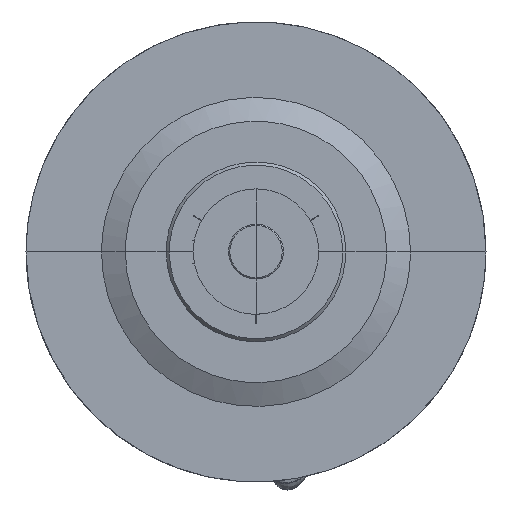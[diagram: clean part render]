
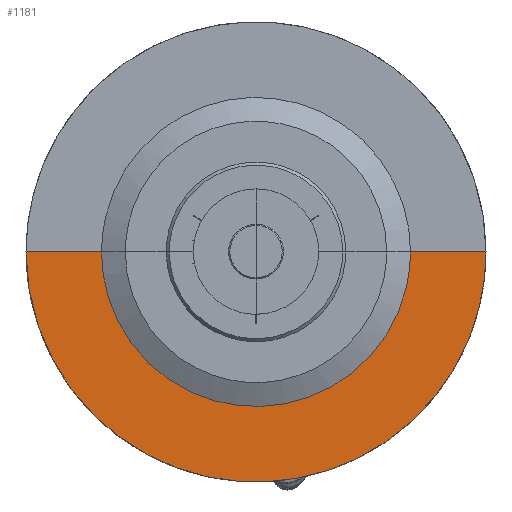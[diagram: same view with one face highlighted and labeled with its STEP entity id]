
A CAD part, top view. The second image highlights one B-rep face of the part: STEP entity #1181.
In plain terms, the highlighted free-form (B-spline) face has degree [1, 2] with [2, 5] control points.
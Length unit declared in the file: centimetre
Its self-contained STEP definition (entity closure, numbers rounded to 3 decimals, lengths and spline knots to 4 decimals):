
#224=(
BOUNDED_CURVE()
B_SPLINE_CURVE(1,(#38218,#38219),.UNSPECIFIED.,.F.,.F.)
B_SPLINE_CURVE_WITH_KNOTS((2,2),(38.0066,56.057),
 .UNSPECIFIED.)
CURVE()
GEOMETRIC_REPRESENTATION_ITEM()
RATIONAL_B_SPLINE_CURVE((1.,1.))
REPRESENTATION_ITEM('')
);
#233=(
BOUNDED_CURVE()
B_SPLINE_CURVE(2,(#38278,#38279,#38280,#38281,#38282),.UNSPECIFIED.,.F.,
 .F.)
B_SPLINE_CURVE_WITH_KNOTS((3,2,3),(3.1416,4.7124,6.2832),
 .UNSPECIFIED.)
CURVE()
GEOMETRIC_REPRESENTATION_ITEM()
RATIONAL_B_SPLINE_CURVE((1.,0.707,1.,0.707,1.))
REPRESENTATION_ITEM('')
);
#234=(
BOUNDED_CURVE()
B_SPLINE_CURVE(1,(#38283,#38284),.UNSPECIFIED.,.F.,.F.)
B_SPLINE_CURVE_WITH_KNOTS((2,2),(-56.057,-38.0066),
 .UNSPECIFIED.)
CURVE()
GEOMETRIC_REPRESENTATION_ITEM()
RATIONAL_B_SPLINE_CURVE((1.,1.))
REPRESENTATION_ITEM('')
);
#236=(
BOUNDED_CURVE()
B_SPLINE_CURVE(2,(#38287,#38288,#38289,#38290,#38291),.UNSPECIFIED.,.F.,
 .F.)
B_SPLINE_CURVE_WITH_KNOTS((3,2,3),(-219.9833,-109.9917,0.),
 .UNSPECIFIED.)
CURVE()
GEOMETRIC_REPRESENTATION_ITEM()
RATIONAL_B_SPLINE_CURVE((1.,0.707,1.,0.707,1.))
REPRESENTATION_ITEM('')
);
#333=(
BOUNDED_SURFACE()
B_SPLINE_SURFACE(1,2,((#38091,#38092,#38093,#38094,#38095),(#38096,#38097,
#38098,#38099,#38100)),.UNSPECIFIED.,.F.,.F.,.F.)
B_SPLINE_SURFACE_WITH_KNOTS((2,2),(3,2,3),(38.0066,56.057),
(3.1416,4.7124,6.2832),.UNSPECIFIED.)
GEOMETRIC_REPRESENTATION_ITEM()
RATIONAL_B_SPLINE_SURFACE(((1.,0.707,1.,0.707,1.),
(1.,0.707,1.,0.707,1.)))
REPRESENTATION_ITEM('')
SURFACE()
);
#1181=ADVANCED_FACE('',(#1432),#333,.T.);
#1432=FACE_OUTER_BOUND('',#1702,.T.);
#1702=EDGE_LOOP('',(#2951,#2952,#2953,#2954));
#2951=ORIENTED_EDGE('',*,*,#3787,.F.);
#2952=ORIENTED_EDGE('',*,*,#3789,.T.);
#2953=ORIENTED_EDGE('',*,*,#3777,.F.);
#2954=ORIENTED_EDGE('',*,*,#3786,.F.);
#3777=EDGE_CURVE('',#4955,#4957,#224,.T.);
#3786=EDGE_CURVE('',#4956,#4955,#233,.T.);
#3787=EDGE_CURVE('',#4958,#4956,#234,.T.);
#3789=EDGE_CURVE('',#4958,#4957,#236,.T.);
#4955=VERTEX_POINT('',#38127);
#4956=VERTEX_POINT('',#38128);
#4957=VERTEX_POINT('',#38129);
#4958=VERTEX_POINT('',#38130);
#38091=CARTESIAN_POINT('',(-36.9455,0.1569,-40.0666));
#38092=CARTESIAN_POINT('',(-36.9455,-36.7886,-40.0666));
#38093=CARTESIAN_POINT('',(0.,-36.7886,-40.0666));
#38094=CARTESIAN_POINT('',(36.9455,-36.7886,-40.0666));
#38095=CARTESIAN_POINT('',(36.9455,0.1569,-40.0666));
#38096=CARTESIAN_POINT('',(-54.9959,0.1569,-40.0666));
#38097=CARTESIAN_POINT('',(-54.9959,-54.8389,-40.0666));
#38098=CARTESIAN_POINT('',(0.,-54.8389,-40.0666));
#38099=CARTESIAN_POINT('',(54.9959,-54.8389,-40.0666));
#38100=CARTESIAN_POINT('',(54.9959,0.1569,-40.0666));
#38127=CARTESIAN_POINT('',(36.9455,0.1569,-40.0666));
#38128=CARTESIAN_POINT('',(-36.9455,0.1569,-40.0666));
#38129=CARTESIAN_POINT('',(54.9959,0.1569,-40.0666));
#38130=CARTESIAN_POINT('',(-54.9959,0.1569,-40.0666));
#38218=CARTESIAN_POINT('',(36.9455,0.1569,-40.0666));
#38219=CARTESIAN_POINT('',(54.9959,0.1569,-40.0666));
#38278=CARTESIAN_POINT('',(-36.9455,0.1569,-40.0666));
#38279=CARTESIAN_POINT('',(-36.9455,-36.7886,-40.0666));
#38280=CARTESIAN_POINT('',(0.,-36.7886,-40.0666));
#38281=CARTESIAN_POINT('',(36.9455,-36.7886,-40.0666));
#38282=CARTESIAN_POINT('',(36.9455,0.1569,-40.0666));
#38283=CARTESIAN_POINT('',(-54.9959,0.1569,-40.0666));
#38284=CARTESIAN_POINT('',(-36.9455,0.1569,-40.0666));
#38287=CARTESIAN_POINT('',(-54.9959,0.1569,-40.0666));
#38288=CARTESIAN_POINT('',(-54.9958,-54.8389,-40.0666));
#38289=CARTESIAN_POINT('',(0.,-54.8389,-40.0666));
#38290=CARTESIAN_POINT('',(54.9959,-54.8389,-40.0666));
#38291=CARTESIAN_POINT('',(54.9959,0.1569,-40.0666));
